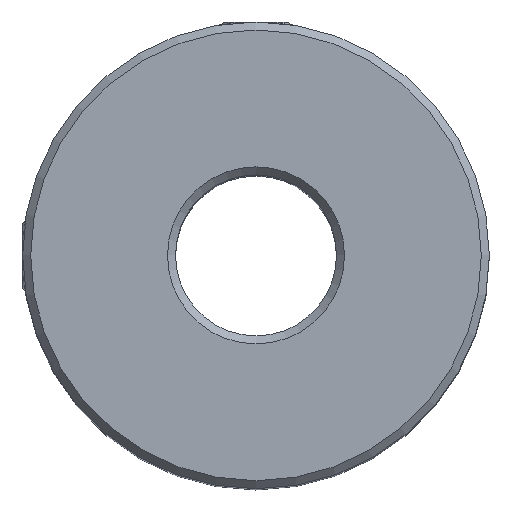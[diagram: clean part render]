
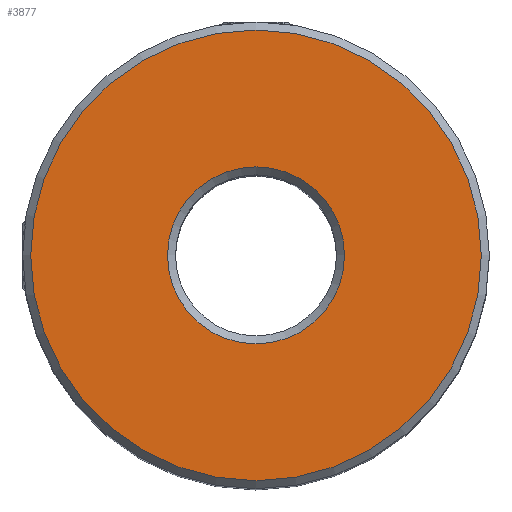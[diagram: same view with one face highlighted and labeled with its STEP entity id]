
A CAD part, top view. The second image highlights one B-rep face of the part: STEP entity #3877.
In plain terms, the highlighted planar face has unit normal (0, 0, 1).
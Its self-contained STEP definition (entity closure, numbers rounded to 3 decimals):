
#448 = AXIS2_PLACEMENT_3D ( 'NONE', #6474, #1128, #3497 ) ;
#469 = ORIENTED_EDGE ( 'NONE', *, *, #7528, .T. ) ;
#1128 = DIRECTION ( 'NONE',  ( 0., 0., 1. ) ) ;
#1624 = CARTESIAN_POINT ( 'NONE',  ( 0., 0., 22.5 ) ) ;
#1769 = DIRECTION ( 'NONE',  ( 0., 0., -1. ) ) ;
#2698 = AXIS2_PLACEMENT_3D ( 'NONE', #1624, #6516, #3569 ) ;
#2884 = FACE_OUTER_BOUND ( 'NONE', #6659, .T. ) ;
#2965 = VERTEX_POINT ( 'NONE', #5352 ) ;
#3497 = DIRECTION ( 'NONE',  ( 1., 0., 0. ) ) ;
#3530 = CARTESIAN_POINT ( 'NONE',  ( 5.5, 0., 22.5 ) ) ;
#3569 = DIRECTION ( 'NONE',  ( 1., 0., 0. ) ) ;
#3806 = CIRCLE ( 'NONE', #448, 14. ) ;
#3877 = ADVANCED_FACE ( 'NONE', ( #7115, #2884 ), #5271, .T. ) ;
#4092 = EDGE_LOOP ( 'NONE', ( #4124 ) ) ;
#4124 = ORIENTED_EDGE ( 'NONE', *, *, #7208, .T. ) ;
#4149 = VERTEX_POINT ( 'NONE', #3530 ) ;
#4187 = AXIS2_PLACEMENT_3D ( 'NONE', #5853, #1769, #4644 ) ;
#4430 = CIRCLE ( 'NONE', #4187, 5.5 ) ;
#4644 = DIRECTION ( 'NONE',  ( 1., 0., 0. ) ) ;
#5271 = PLANE ( 'NONE',  #2698 ) ;
#5352 = CARTESIAN_POINT ( 'NONE',  ( 14., 0., 22.5 ) ) ;
#5853 = CARTESIAN_POINT ( 'NONE',  ( 0., 0., 22.5 ) ) ;
#6474 = CARTESIAN_POINT ( 'NONE',  ( 0., 0., 22.5 ) ) ;
#6516 = DIRECTION ( 'NONE',  ( 0., 0., 1. ) ) ;
#6659 = EDGE_LOOP ( 'NONE', ( #469 ) ) ;
#7115 = FACE_BOUND ( 'NONE', #4092, .T. ) ;
#7208 = EDGE_CURVE ( 'NONE', #4149, #4149, #4430, .T. ) ;
#7528 = EDGE_CURVE ( 'NONE', #2965, #2965, #3806, .T. ) ;
